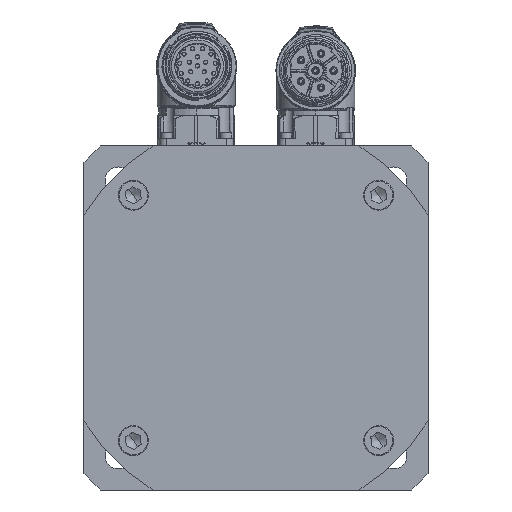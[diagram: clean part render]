
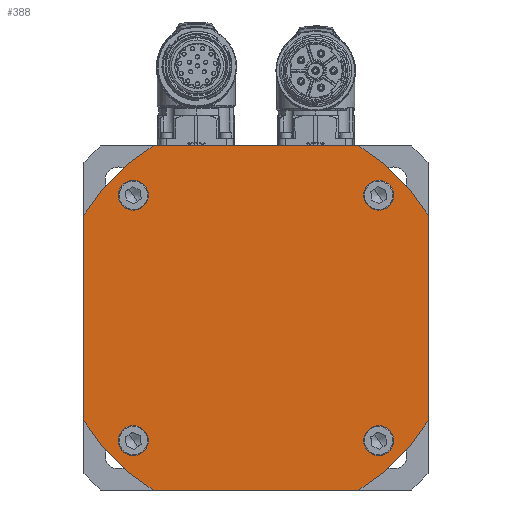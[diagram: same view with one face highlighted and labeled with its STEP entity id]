
A CAD part, left-side view. The second image highlights one B-rep face of the part: STEP entity #388.
In plain terms, the highlighted planar face has unit normal (-1, 0, 0).
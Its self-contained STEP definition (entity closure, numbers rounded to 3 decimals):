
#80=CARTESIAN_POINT('Cartesian Point',(0.,57.5,34.391)) ;
#83=CARTESIAN_POINT('Axis2P3D Location',(0.,0.,0.)) ;
#87=CARTESIAN_POINT('Cartesian Point',(0.,34.391,57.5)) ;
#246=CARTESIAN_POINT('Cartesian Point',(0.,57.5,-34.391)) ;
#249=CARTESIAN_POINT('Line Origine',(0.,57.5,0.)) ;
#261=CARTESIAN_POINT('Axis2P3D Location',(0.,0.,0.)) ;
#266=CARTESIAN_POINT('Line Origine',(0.,-57.5,0.)) ;
#270=CARTESIAN_POINT('Cartesian Point',(0.,-57.5,34.391)) ;
#272=CARTESIAN_POINT('Cartesian Point',(0.,-57.5,-34.391)) ;
#275=CARTESIAN_POINT('Axis2P3D Location',(0.,0.,0.)) ;
#279=CARTESIAN_POINT('Cartesian Point',(0.,-34.391,57.5)) ;
#282=CARTESIAN_POINT('Line Origine',(0.,0.,57.5)) ;
#287=CARTESIAN_POINT('Axis2P3D Location',(0.,0.,0.)) ;
#291=CARTESIAN_POINT('Cartesian Point',(0.,34.391,-57.5)) ;
#294=CARTESIAN_POINT('Line Origine',(0.,0.,-57.5)) ;
#298=CARTESIAN_POINT('Cartesian Point',(0.,-34.391,-57.5)) ;
#301=CARTESIAN_POINT('Axis2P3D Location',(0.,0.,0.)) ;
#316=CARTESIAN_POINT('Axis2P3D Location',(0.,41.012,41.012)) ;
#320=CARTESIAN_POINT('Cartesian Point',(0.,36.012,41.012)) ;
#322=CARTESIAN_POINT('Cartesian Point',(0.,46.012,41.012)) ;
#325=CARTESIAN_POINT('Axis2P3D Location',(0.,41.012,41.012)) ;
#334=CARTESIAN_POINT('Axis2P3D Location',(0.,-41.012,-41.012)) ;
#338=CARTESIAN_POINT('Cartesian Point',(0.,-46.012,-41.012)) ;
#340=CARTESIAN_POINT('Cartesian Point',(0.,-36.012,-41.012)) ;
#343=CARTESIAN_POINT('Axis2P3D Location',(0.,-41.012,-41.012)) ;
#352=CARTESIAN_POINT('Axis2P3D Location',(0.,-41.012,41.012)) ;
#356=CARTESIAN_POINT('Cartesian Point',(0.,-46.012,41.012)) ;
#358=CARTESIAN_POINT('Cartesian Point',(0.,-36.012,41.012)) ;
#361=CARTESIAN_POINT('Axis2P3D Location',(0.,-41.012,41.012)) ;
#370=CARTESIAN_POINT('Axis2P3D Location',(0.,41.012,-41.012)) ;
#374=CARTESIAN_POINT('Cartesian Point',(0.,36.012,-41.012)) ;
#376=CARTESIAN_POINT('Cartesian Point',(0.,46.012,-41.012)) ;
#379=CARTESIAN_POINT('Axis2P3D Location',(0.,41.012,-41.012)) ;
#84=DIRECTION('Axis2P3D Direction',(1.,0.,0.)) ;
#250=DIRECTION('Vector Direction',(0.,0.,1.)) ;
#262=DIRECTION('Axis2P3D Direction',(1.,0.,0.)) ;
#263=DIRECTION('Axis2P3D XDirection',(0.,1.,0.)) ;
#267=DIRECTION('Vector Direction',(0.,0.,-1.)) ;
#276=DIRECTION('Axis2P3D Direction',(1.,0.,0.)) ;
#283=DIRECTION('Vector Direction',(0.,1.,0.)) ;
#288=DIRECTION('Axis2P3D Direction',(1.,0.,0.)) ;
#295=DIRECTION('Vector Direction',(0.,-1.,0.)) ;
#302=DIRECTION('Axis2P3D Direction',(1.,0.,0.)) ;
#317=DIRECTION('Axis2P3D Direction',(1.,0.,0.)) ;
#326=DIRECTION('Axis2P3D Direction',(1.,0.,0.)) ;
#335=DIRECTION('Axis2P3D Direction',(1.,0.,0.)) ;
#344=DIRECTION('Axis2P3D Direction',(1.,0.,0.)) ;
#353=DIRECTION('Axis2P3D Direction',(1.,0.,0.)) ;
#362=DIRECTION('Axis2P3D Direction',(1.,0.,0.)) ;
#371=DIRECTION('Axis2P3D Direction',(1.,0.,0.)) ;
#380=DIRECTION('Axis2P3D Direction',(1.,0.,0.)) ;
#85=AXIS2_PLACEMENT_3D('Circle Axis2P3D',#83,#84,$) ;
#264=AXIS2_PLACEMENT_3D('Plane Axis2P3D',#261,#262,#263) ;
#277=AXIS2_PLACEMENT_3D('Circle Axis2P3D',#275,#276,$) ;
#289=AXIS2_PLACEMENT_3D('Circle Axis2P3D',#287,#288,$) ;
#303=AXIS2_PLACEMENT_3D('Circle Axis2P3D',#301,#302,$) ;
#318=AXIS2_PLACEMENT_3D('Circle Axis2P3D',#316,#317,$) ;
#327=AXIS2_PLACEMENT_3D('Circle Axis2P3D',#325,#326,$) ;
#336=AXIS2_PLACEMENT_3D('Circle Axis2P3D',#334,#335,$) ;
#345=AXIS2_PLACEMENT_3D('Circle Axis2P3D',#343,#344,$) ;
#354=AXIS2_PLACEMENT_3D('Circle Axis2P3D',#352,#353,$) ;
#363=AXIS2_PLACEMENT_3D('Circle Axis2P3D',#361,#362,$) ;
#372=AXIS2_PLACEMENT_3D('Circle Axis2P3D',#370,#371,$) ;
#381=AXIS2_PLACEMENT_3D('Circle Axis2P3D',#379,#380,$) ;
#307=ORIENTED_EDGE('Oriented Edge',*,*,#274,.F.) ;
#308=ORIENTED_EDGE('Oriented Edge',*,*,#281,.F.) ;
#309=ORIENTED_EDGE('Oriented Edge',*,*,#286,.F.) ;
#310=ORIENTED_EDGE('Oriented Edge',*,*,#89,.F.) ;
#311=ORIENTED_EDGE('Oriented Edge',*,*,#253,.F.) ;
#312=ORIENTED_EDGE('Oriented Edge',*,*,#293,.F.) ;
#313=ORIENTED_EDGE('Oriented Edge',*,*,#300,.F.) ;
#314=ORIENTED_EDGE('Oriented Edge',*,*,#305,.F.) ;
#331=ORIENTED_EDGE('Oriented Edge',*,*,#324,.F.) ;
#332=ORIENTED_EDGE('Oriented Edge',*,*,#329,.F.) ;
#349=ORIENTED_EDGE('Oriented Edge',*,*,#342,.F.) ;
#350=ORIENTED_EDGE('Oriented Edge',*,*,#347,.F.) ;
#367=ORIENTED_EDGE('Oriented Edge',*,*,#360,.F.) ;
#368=ORIENTED_EDGE('Oriented Edge',*,*,#365,.F.) ;
#385=ORIENTED_EDGE('Oriented Edge',*,*,#378,.F.) ;
#386=ORIENTED_EDGE('Oriented Edge',*,*,#383,.F.) ;
#333=FACE_BOUND('Face Bound',#330,.T.) ;
#351=FACE_BOUND('Face Bound',#348,.T.) ;
#369=FACE_BOUND('Face Bound',#366,.T.) ;
#387=FACE_BOUND('Face Bound',#384,.T.) ;
#251=VECTOR('Line Direction',#250,1.) ;
#268=VECTOR('Line Direction',#267,1.) ;
#284=VECTOR('Line Direction',#283,1.) ;
#296=VECTOR('Line Direction',#295,1.) ;
#388=ADVANCED_FACE('',(#315,#333,#351,#369,#387),#265,.F.) ;
#86=CIRCLE('generated circle',#85,67.) ;
#278=CIRCLE('generated circle',#277,67.) ;
#290=CIRCLE('generated circle',#289,67.) ;
#304=CIRCLE('generated circle',#303,67.) ;
#319=CIRCLE('generated circle',#318,5.) ;
#328=CIRCLE('generated circle',#327,5.) ;
#337=CIRCLE('generated circle',#336,5.) ;
#346=CIRCLE('generated circle',#345,5.) ;
#355=CIRCLE('generated circle',#354,5.) ;
#364=CIRCLE('generated circle',#363,5.) ;
#373=CIRCLE('generated circle',#372,5.) ;
#382=CIRCLE('generated circle',#381,5.) ;
#89=EDGE_CURVE('',#81,#88,#86,.T.) ;
#253=EDGE_CURVE('',#247,#81,#252,.T.) ;
#274=EDGE_CURVE('',#271,#273,#269,.T.) ;
#281=EDGE_CURVE('',#280,#271,#278,.T.) ;
#286=EDGE_CURVE('',#88,#280,#285,.F.) ;
#293=EDGE_CURVE('',#292,#247,#290,.T.) ;
#300=EDGE_CURVE('',#299,#292,#297,.F.) ;
#305=EDGE_CURVE('',#273,#299,#304,.T.) ;
#324=EDGE_CURVE('',#321,#323,#319,.F.) ;
#329=EDGE_CURVE('',#323,#321,#328,.F.) ;
#342=EDGE_CURVE('',#339,#341,#337,.F.) ;
#347=EDGE_CURVE('',#341,#339,#346,.F.) ;
#360=EDGE_CURVE('',#357,#359,#355,.F.) ;
#365=EDGE_CURVE('',#359,#357,#364,.F.) ;
#378=EDGE_CURVE('',#375,#377,#373,.F.) ;
#383=EDGE_CURVE('',#377,#375,#382,.F.) ;
#306=EDGE_LOOP('Oriented Loop',(#307,#308,#309,#310,#311,#312,#313,#314)) ;
#330=EDGE_LOOP('Oriented Loop',(#331,#332)) ;
#348=EDGE_LOOP('Oriented Loop',(#349,#350)) ;
#366=EDGE_LOOP('Oriented Loop',(#367,#368)) ;
#384=EDGE_LOOP('Oriented Loop',(#385,#386)) ;
#315=FACE_OUTER_BOUND('Face Bound',#306,.T.) ;
#252=LINE('Line',#249,#251) ;
#269=LINE('Line',#266,#268) ;
#285=LINE('Line',#282,#284) ;
#297=LINE('Line',#294,#296) ;
#265=PLANE('Plane',#264) ;
#81=VERTEX_POINT('Vertex Point',#80) ;
#88=VERTEX_POINT('Vertex Point',#87) ;
#247=VERTEX_POINT('Vertex Point',#246) ;
#271=VERTEX_POINT('Vertex Point',#270) ;
#273=VERTEX_POINT('Vertex Point',#272) ;
#280=VERTEX_POINT('Vertex Point',#279) ;
#292=VERTEX_POINT('Vertex Point',#291) ;
#299=VERTEX_POINT('Vertex Point',#298) ;
#321=VERTEX_POINT('Vertex Point',#320) ;
#323=VERTEX_POINT('Vertex Point',#322) ;
#339=VERTEX_POINT('Vertex Point',#338) ;
#341=VERTEX_POINT('Vertex Point',#340) ;
#357=VERTEX_POINT('Vertex Point',#356) ;
#359=VERTEX_POINT('Vertex Point',#358) ;
#375=VERTEX_POINT('Vertex Point',#374) ;
#377=VERTEX_POINT('Vertex Point',#376) ;
